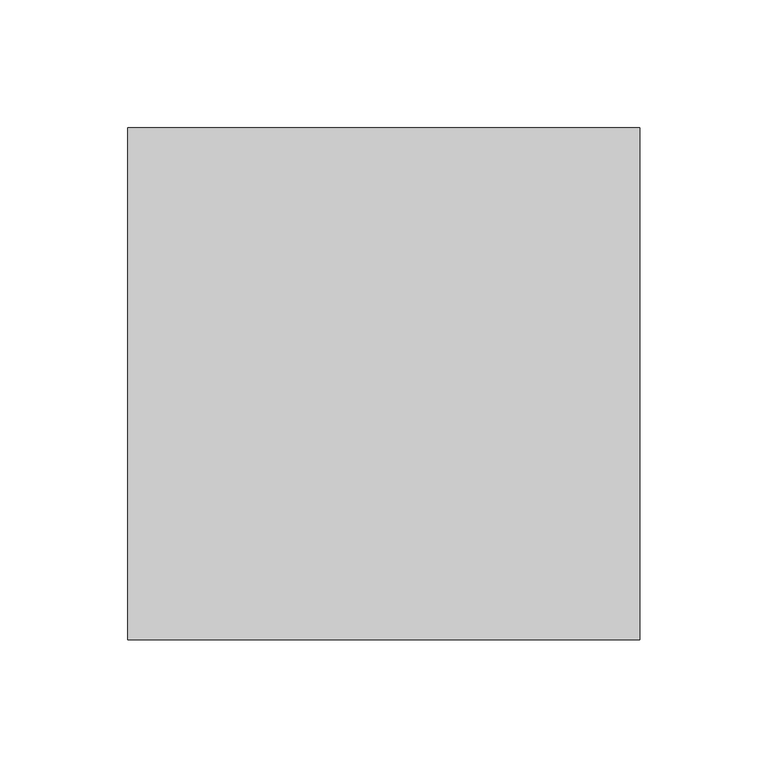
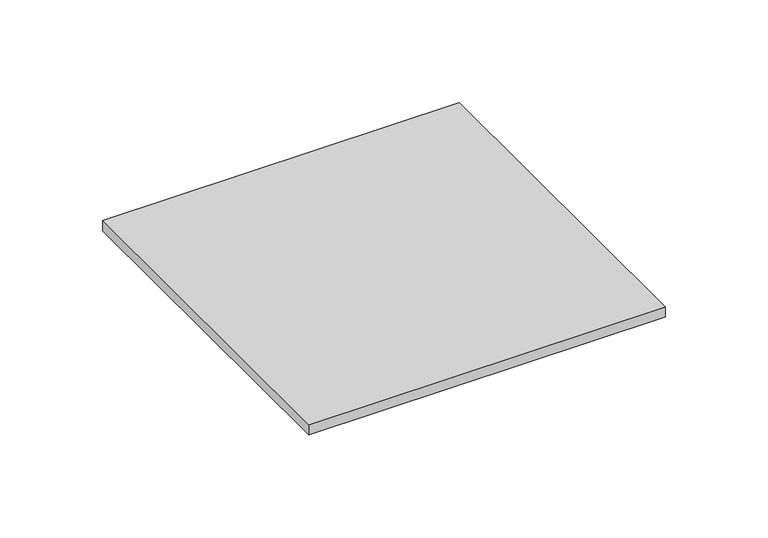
"""IFC4 building model written with IfcOpenShell, lengths in millimetres: proxy geometry, PSOM_Joint-Basorfix : Basorfix PSOM 200x200x6 GC70."""

from ifc_helpers import new_model, si_unit, origin, origin_with_axes, place, context, project, spatial, polyline, outline, extrude, source, transform, mapped, element, save


def generic_models_bb113665(model_context):
    return source(origin(), model_context, "Body", "SweptSolid", [
        extrude(outline(polyline([(100.0, -100.0), (-100.0, -100.0), (-100.0, 100.0), (100.0, 100.0), (100.0, -100.0)])), origin_with_axes(), (0.0, 0.0, 1.0), 6.0),
    ])


if __name__ == "__main__":
    model = new_model("IFC4")
    model_context = context("Model", 3, world=origin())
    ifc_project = project(units=[si_unit("LENGTHUNIT", "METRE", prefix="MILLI")], contexts=[model_context])
    site = spatial("IfcSite", under=ifc_project)
    building = spatial("IfcBuilding", under=site)
    placement = place(None, origin())
    generic_models_shape = generic_models_bb113665(model_context)
    element("IfcBuildingElementProxy", 1, Name="PSOM_Joint-Basorfix : Basorfix PSOM 200x200x6 GC70", ObjectType="PSOM_Joint-Basorfix : Basorfix PSOM 200x200x6 GC70", at=placement, inside=building, context=model_context, shape_type="MappedRepresentation", body=[
        mapped(generic_models_shape, transform((0.0, 0.0, 0.0), x_axis=(1.0, 0.0, 0.0), y_axis=(0.0, 1.0, 0.0), z_axis=(0.0, 0.0, 1.0))),
    ])
    save(model, "model.ifc")
